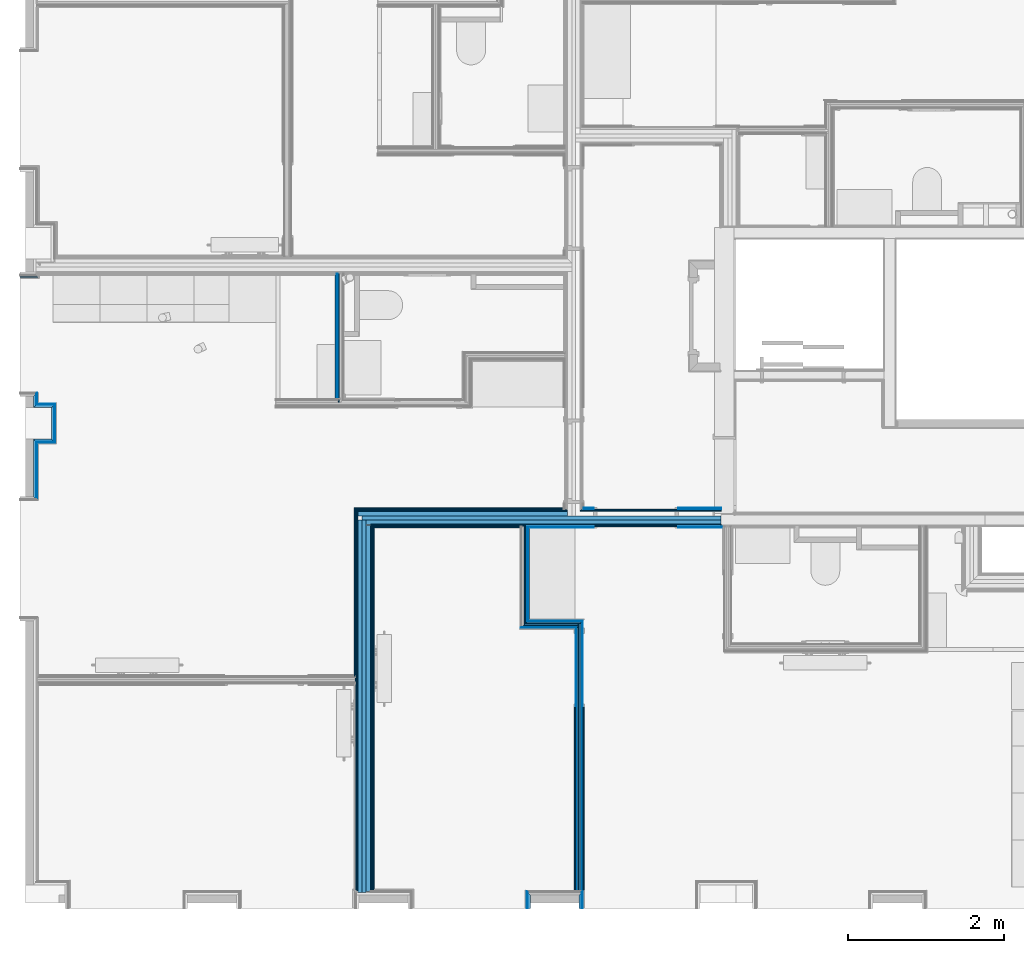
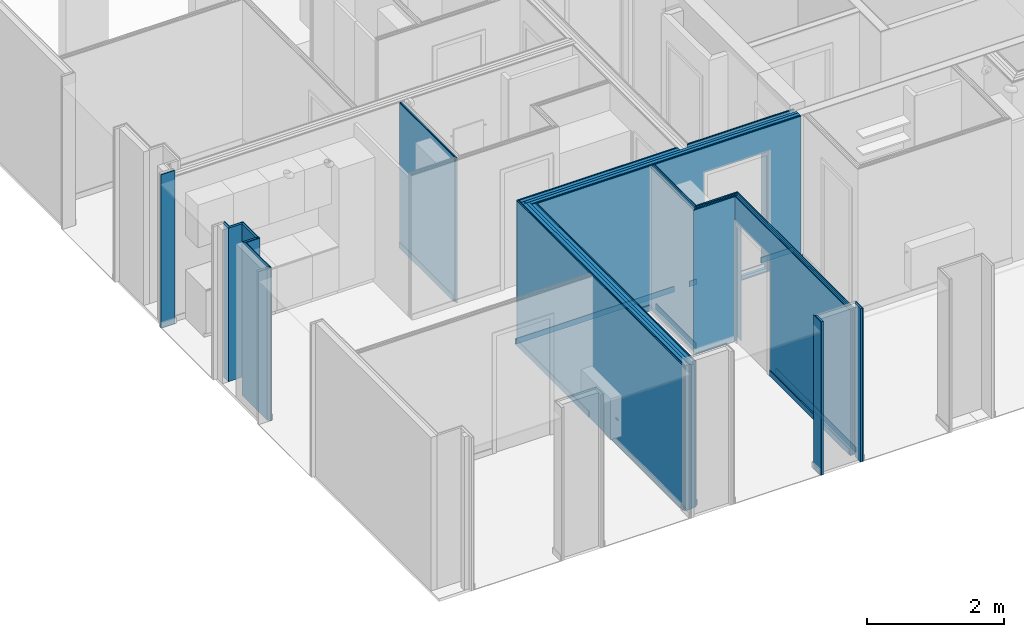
# One storey, part 10 of 82: 56 building element parts, 3 openings, 14 elements without a shape of their own.
"""IFC2X3 building model written with IfcOpenShell, lengths in metres."""

from ifc_helpers import new_model, entity, si_unit, converted_unit, derived_unit, money_unit, direction, frame, frame_2d, origin_with_axes, place, context, subcontext, project, spatial, polyline, rectangle, outline, extrude, material, type_object, element, aggregate, save


model = new_model("IFC2X3")

# Units and contexts
model_context = context("Model", 3, precision=1e-05, world=origin_with_axes(), true_north=direction((0.0, 1.0)))
body_context = subcontext(model_context, "Body", "Model", "MODEL_VIEW", scale=1.0)
ifc_project = project(units=[si_unit("LENGTHUNIT", "METRE"), si_unit("AREAUNIT", "SQUARE_METRE"), si_unit("VOLUMEUNIT", "CUBIC_METRE"), si_unit("ABSORBEDDOSEUNIT", "GRAY"), si_unit("AMOUNTOFSUBSTANCEUNIT", "MOLE"), si_unit("DOSEEQUIVALENTUNIT", "SIEVERT"), si_unit("ELECTRICCAPACITANCEUNIT", "FARAD"), si_unit("ELECTRICCHARGEUNIT", "COULOMB"), si_unit("ELECTRICCONDUCTANCEUNIT", "SIEMENS"), si_unit("ELECTRICCURRENTUNIT", "AMPERE"), si_unit("ELECTRICRESISTANCEUNIT", "OHM"), si_unit("ELECTRICVOLTAGEUNIT", "VOLT"), si_unit("ENERGYUNIT", "JOULE"), si_unit("FORCEUNIT", "NEWTON"), si_unit("FREQUENCYUNIT", "HERTZ"), si_unit("ILLUMINANCEUNIT", "LUX"), si_unit("INDUCTANCEUNIT", "HENRY"), si_unit("LUMINOUSFLUXUNIT", "LUMEN"), si_unit("LUMINOUSINTENSITYUNIT", "CANDELA"), si_unit("MAGNETICFLUXDENSITYUNIT", "TESLA"), si_unit("MAGNETICFLUXUNIT", "WEBER"), si_unit("MASSUNIT", "GRAM"), converted_unit("PLANEANGLEUNIT", "degree", entity("IfcReal", 0.0174532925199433), si_unit("PLANEANGLEUNIT", "RADIAN"), dimensions=[0, 0, 0, 0, 0, 0, 0]), si_unit("POWERUNIT", "WATT"), si_unit("PRESSUREUNIT", "PASCAL"), si_unit("RADIOACTIVITYUNIT", "BECQUEREL"), si_unit("SOLIDANGLEUNIT", "STERADIAN"), si_unit("THERMODYNAMICTEMPERATUREUNIT", "KELVIN"), si_unit("TIMEUNIT", "SECOND"), derived_unit("ACCELERATIONUNIT", [(si_unit("LENGTHUNIT", "METRE"), 1), (si_unit("TIMEUNIT", "SECOND"), -2)]), derived_unit("ANGULARVELOCITYUNIT", [(converted_unit("PLANEANGLEUNIT", "degree", entity("IfcReal", 0.0174532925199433), si_unit("PLANEANGLEUNIT", "RADIAN"), dimensions=[0, 0, 0, 0, 0, 0, 0]), 1), (si_unit("TIMEUNIT", "SECOND"), -1)]), derived_unit("CURVATUREUNIT", [(converted_unit("PLANEANGLEUNIT", "degree", entity("IfcReal", 0.0174532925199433), si_unit("PLANEANGLEUNIT", "RADIAN"), dimensions=[0, 0, 0, 0, 0, 0, 0]), 1), (si_unit("LENGTHUNIT", "METRE"), -1)]), derived_unit("DYNAMICVISCOSITYUNIT", [(si_unit("PRESSUREUNIT", "PASCAL"), 1), (si_unit("TIMEUNIT", "SECOND"), 1)]), derived_unit("HEATFLUXDENSITYUNIT", [(si_unit("POWERUNIT", "WATT"), 1), (si_unit("LENGTHUNIT", "METRE"), -2)]), derived_unit("HEATINGVALUEUNIT", [(si_unit("ENERGYUNIT", "JOULE"), 1), (si_unit("MASSUNIT", "GRAM"), -1)]), derived_unit("INTEGERCOUNTRATEUNIT", [(si_unit("TIMEUNIT", "SECOND"), -1)]), derived_unit("IONCONCENTRATIONUNIT", [(si_unit("MASSUNIT", "GRAM"), 1), (si_unit("VOLUMEUNIT", "CUBIC_METRE"), -1)]), derived_unit("ISOTHERMALMOISTURECAPACITYUNIT", [(si_unit("VOLUMEUNIT", "CUBIC_METRE"), 1), (si_unit("MASSUNIT", "GRAM"), -1)]), derived_unit("KINEMATICVISCOSITYUNIT", [(si_unit("AREAUNIT", "SQUARE_METRE"), 1), (si_unit("TIMEUNIT", "SECOND"), -1)]), derived_unit("LINEARFORCEUNIT", [(si_unit("FORCEUNIT", "NEWTON"), 1), (si_unit("LENGTHUNIT", "METRE"), -1)]), derived_unit("LINEARMOMENTUNIT", [(si_unit("FORCEUNIT", "NEWTON"), 1), (si_unit("LENGTHUNIT", "METRE"), -1)]), derived_unit("LINEARSTIFFNESSUNIT", [(si_unit("FORCEUNIT", "NEWTON"), 1), (si_unit("LENGTHUNIT", "METRE"), -1)]), derived_unit("LINEARVELOCITYUNIT", [(si_unit("LENGTHUNIT", "METRE"), 1), (si_unit("TIMEUNIT", "SECOND"), -1)]), derived_unit("LUMINOUSINTENSITYDISTRIBUTIONUNIT", [(si_unit("LUMINOUSINTENSITYUNIT", "CANDELA"), 1), (si_unit("LUMINOUSFLUXUNIT", "LUMEN"), -1)]), derived_unit("MASSDENSITYUNIT", [(si_unit("MASSUNIT", "GRAM"), 1), (si_unit("VOLUMEUNIT", "CUBIC_METRE"), -1)]), derived_unit("MASSFLOWRATEUNIT", [(si_unit("MASSUNIT", "GRAM"), 1), (si_unit("TIMEUNIT", "SECOND"), -1)]), derived_unit("MASSPERLENGTHUNIT", [(si_unit("MASSUNIT", "GRAM"), 1), (si_unit("LENGTHUNIT", "METRE"), -1)]), derived_unit("MODULUSOFELASTICITYUNIT", [(si_unit("FORCEUNIT", "NEWTON"), 1), (si_unit("AREAUNIT", "SQUARE_METRE"), -1)]), derived_unit("MODULUSOFLINEARSUBGRADEREACTIONUNIT", [(si_unit("FORCEUNIT", "NEWTON"), 1), (si_unit("LENGTHUNIT", "METRE"), -2)]), derived_unit("MODULUSOFROTATIONALSUBGRADEREACTIONUNIT", [(si_unit("FORCEUNIT", "NEWTON"), 1), (si_unit("LENGTHUNIT", "METRE"), 1)]), derived_unit("MODULUSOFSUBGRADEREACTIONUNIT", [(si_unit("FORCEUNIT", "NEWTON"), 1), (si_unit("VOLUMEUNIT", "CUBIC_METRE"), -1)]), derived_unit("MOISTUREDIFFUSIVITYUNIT", [(si_unit("VOLUMEUNIT", "CUBIC_METRE"), 1), (si_unit("TIMEUNIT", "SECOND"), -1)]), derived_unit("MOLECULARWEIGHTUNIT", [(si_unit("MASSUNIT", "GRAM"), 1), (si_unit("AMOUNTOFSUBSTANCEUNIT", "MOLE"), -1)]), derived_unit("PLANARFORCEUNIT", [(si_unit("FORCEUNIT", "NEWTON"), 1), (si_unit("LENGTHUNIT", "METRE"), -2)]), derived_unit("ROTATIONALFREQUENCYUNIT", [(si_unit("TIMEUNIT", "SECOND"), -1)]), derived_unit("ROTATIONALMASSUNIT", [(si_unit("MASSUNIT", "GRAM"), 1), (si_unit("LENGTHUNIT", "METRE"), 2)]), derived_unit("ROTATIONALSTIFFNESSUNIT", [(si_unit("FORCEUNIT", "NEWTON"), 1), (si_unit("LENGTHUNIT", "METRE"), 1), (converted_unit("PLANEANGLEUNIT", "degree", entity("IfcReal", 0.0174532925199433), si_unit("PLANEANGLEUNIT", "RADIAN"), dimensions=[0, 0, 0, 0, 0, 0, 0]), -1)]), derived_unit("SECTIONAREAINTEGRALUNIT", [(si_unit("LENGTHUNIT", "METRE"), 5)]), derived_unit("SECTIONMODULUSUNIT", [(si_unit("LENGTHUNIT", "METRE"), 3)]), derived_unit("SHEARMODULUSUNIT", [(si_unit("FORCEUNIT", "NEWTON"), 1), (si_unit("AREAUNIT", "SQUARE_METRE"), -1)]), derived_unit("SOUNDPOWERUNIT", [(si_unit("ENERGYUNIT", "JOULE"), 1), (si_unit("TIMEUNIT", "SECOND"), -1)]), derived_unit("SPECIFICHEATCAPACITYUNIT", [(si_unit("FORCEUNIT", "NEWTON"), 1), (si_unit("MASSUNIT", "GRAM"), -1), (si_unit("THERMODYNAMICTEMPERATUREUNIT", "KELVIN"), -1)]), derived_unit("TEMPERATUREGRADIENTUNIT", [(si_unit("THERMODYNAMICTEMPERATUREUNIT", "KELVIN"), 1), (si_unit("LENGTHUNIT", "METRE"), -1)]), derived_unit("THERMALADMITTANCEUNIT", [(si_unit("POWERUNIT", "WATT"), 1), (si_unit("AREAUNIT", "SQUARE_METRE"), -1), (si_unit("THERMODYNAMICTEMPERATUREUNIT", "KELVIN"), -1)]), derived_unit("THERMALCONDUCTANCEUNIT", [(si_unit("POWERUNIT", "WATT"), 1), (si_unit("LENGTHUNIT", "METRE"), -1), (si_unit("THERMODYNAMICTEMPERATUREUNIT", "KELVIN"), -1)]), derived_unit("THERMALEXPANSIONCOEFFICIENTUNIT", [(si_unit("THERMODYNAMICTEMPERATUREUNIT", "KELVIN"), -1)]), derived_unit("THERMALRESISTANCEUNIT", [(si_unit("AREAUNIT", "SQUARE_METRE"), 1), (si_unit("POWERUNIT", "WATT"), -1)]), derived_unit("THERMALTRANSMITTANCEUNIT", [(si_unit("POWERUNIT", "WATT"), 1), (si_unit("AREAUNIT", "SQUARE_METRE"), -1), (si_unit("THERMODYNAMICTEMPERATUREUNIT", "KELVIN"), -1)]), derived_unit("TORQUEUNIT", [(si_unit("FORCEUNIT", "NEWTON"), 1), (si_unit("LENGTHUNIT", "METRE"), 1)]), derived_unit("VAPORPERMEABILITYUNIT", [(si_unit("MASSUNIT", "GRAM"), 1), (si_unit("TIMEUNIT", "SECOND"), -1)]), derived_unit("VOLUMETRICFLOWRATEUNIT", [(si_unit("VOLUMEUNIT", "CUBIC_METRE"), 1), (si_unit("TIMEUNIT", "SECOND"), -1)]), derived_unit("WARPINGCONSTANTUNIT", [(si_unit("LENGTHUNIT", "METRE"), 6)]), derived_unit("WARPINGMOMENTUNIT", [(si_unit("FORCEUNIT", "NEWTON"), 1), (si_unit("LENGTHUNIT", "METRE"), 2)]), money_unit("GBP")], contexts=[model_context])

# Site, building, storey
site_placement = place(None, origin_with_axes())
site = spatial("IfcSite", under=ifc_project, at=site_placement, Name="Site", CompositionType="ELEMENT")
building_placement = place(site_placement, origin_with_axes())
building = spatial("IfcBuilding", under=site, at=building_placement, Name="Building01", CompositionType="ELEMENT")
storey_placement = place(building_placement, frame((0.0, 0.0, 12.13), z_axis=(0.0, 0.0, 1.0), x_axis=(1.0, 0.0, 0.0)))
storey = spatial("IfcBuildingStorey", under=building, at=storey_placement, Name="3F", CompositionType="ELEMENT", Elevation=12.13)

# Wall, building element parts
wall_type_1 = type_object("IfcWallType", Name="SHE_A-Walls_Type06d_ExternalWallInsulation_48mm", PredefinedType="NOTDEFINED")
wall_1_placement = place(storey_placement, frame((0.27, 6.64418, 0.0), z_axis=(0.0, 0.0, 1.0), x_axis=(0.0, -1.0, 0.0)))
wall_1 = element("IfcWall", 1, at=wall_1_placement, inside=storey, type_object=wall_type_1, Name="6D", ObjectType="SHE_A-Walls_Type06d_ExternalWallInsulation_48mm")
ifc_material_1 = material(Name="A_BSUK_Insulation")
placement_1 = place(wall_1_placement, origin_with_axes())
building_element_part_1 = element("IfcBuildingElementPart", 2, at=placement_1, material=ifc_material_1, Name="1", context=body_context, shape_type="SweptSolid", body=[
    extrude(outline(polyline([(0.10818, 0.036), (-0.036, 0.036), (0.0, 0.0), (0.14418, 0.0), (0.10818, 0.036)])), origin_with_axes(), (0.0, 0.0, 1.0), 2.74),
])
ifc_material_2 = material(Name="A_BSUK_WallInternal_Finishes_Plasterboard")
building_element_part_2 = element("IfcBuildingElementPart", 3, at=placement_1, material=ifc_material_2, Name="2", context=body_context, shape_type="SweptSolid", body=[
    extrude(outline(polyline([(0.09618, 0.048), (-0.048, 0.048), (-0.035, 0.035), (0.10918, 0.035), (0.09618, 0.048)])), origin_with_axes(), (0.0, 0.0, 1.0), 2.74),
])
aggregate(wall_1, [building_element_part_1, building_element_part_2])

wall_2_placement = place(storey_placement, frame((0.27, 6.5, 0.0), z_axis=(0.0, 0.0, 1.0), x_axis=(1.0, 0.0, 0.0)))
wall_2 = element("IfcWall", 4, at=wall_2_placement, inside=storey, type_object=wall_type_1, Name="6D", ObjectType="SHE_A-Walls_Type06d_ExternalWallInsulation_48mm")
placement_2 = place(wall_2_placement, origin_with_axes())
building_element_part_3 = element("IfcBuildingElementPart", 5, at=placement_2, material=ifc_material_1, Name="1", context=body_context, shape_type="SweptSolid", body=[
    extrude(outline(polyline([(0.266, 0.036), (0.036, 0.036), (0.0, 0.0), (0.23, 0.0), (0.266, 0.036)])), origin_with_axes(), (0.0, 0.0, 1.0), 2.74),
])
building_element_part_4 = element("IfcBuildingElementPart", 6, at=placement_2, material=ifc_material_2, Name="2", context=body_context, shape_type="SweptSolid", body=[
    extrude(outline(polyline([(0.278, 0.048), (0.048, 0.048), (0.035, 0.035), (0.265, 0.035), (0.278, 0.048)])), origin_with_axes(), (0.0, 0.0, 1.0), 2.74),
])
aggregate(wall_2, [building_element_part_3, building_element_part_4])

wall_3_placement = place(storey_placement, frame((0.5, 6.5, 0.0), z_axis=(0.0, 0.0, 1.0), x_axis=(0.0, -1.0, 0.0)))
wall_3 = element("IfcWall", 7, at=wall_3_placement, inside=storey, type_object=wall_type_1, Name="6D", ObjectType="SHE_A-Walls_Type06d_ExternalWallInsulation_48mm")
placement_3 = place(wall_3_placement, origin_with_axes())
building_element_part_5 = element("IfcBuildingElementPart", 8, at=placement_3, material=ifc_material_1, Name="1", context=body_context, shape_type="SweptSolid", body=[
    extrude(outline(polyline([(0.436, 0.036), (-0.036, 0.036), (0.0, 0.0), (0.4, 0.0), (0.436, 0.036)])), origin_with_axes(), (0.0, 0.0, 1.0), 2.74),
])
building_element_part_6 = element("IfcBuildingElementPart", 9, at=placement_3, material=ifc_material_2, Name="2", context=body_context, shape_type="SweptSolid", body=[
    extrude(outline(polyline([(0.448, 0.048), (-0.048, 0.048), (-0.035, 0.035), (0.435, 0.035), (0.448, 0.048)])), origin_with_axes(), (0.0, 0.0, 1.0), 2.74),
])
aggregate(wall_3, [building_element_part_5, building_element_part_6])

wall_4_placement = place(storey_placement, frame((0.5, 6.1, 0.0), z_axis=(0.0, 0.0, 1.0), x_axis=(-1.0, 0.0, 0.0)))
wall_4 = element("IfcWall", 10, at=wall_4_placement, inside=storey, type_object=wall_type_1, Name="6D", ObjectType="SHE_A-Walls_Type06d_ExternalWallInsulation_48mm")
placement_4 = place(wall_4_placement, origin_with_axes())
building_element_part_7 = element("IfcBuildingElementPart", 11, at=placement_4, material=ifc_material_1, Name="1", context=body_context, shape_type="SweptSolid", body=[
    extrude(outline(polyline([(0.194, 0.036), (-0.036, 0.036), (0.0, 0.0), (0.23, 0.0), (0.194, 0.036)])), origin_with_axes(), (0.0, 0.0, 1.0), 2.74),
])
building_element_part_8 = element("IfcBuildingElementPart", 12, at=placement_4, material=ifc_material_2, Name="2", context=body_context, shape_type="SweptSolid", body=[
    extrude(outline(polyline([(0.182, 0.048), (-0.048, 0.048), (-0.035, 0.035), (0.195, 0.035), (0.182, 0.048)])), origin_with_axes(), (0.0, 0.0, 1.0), 2.74),
])
aggregate(wall_4, [building_element_part_7, building_element_part_8])

wall_5_placement = place(storey_placement, frame((0.27, 6.1, 0.0), z_axis=(0.0, 0.0, 1.0), x_axis=(0.0, -1.0, 0.0)))
wall_5 = element("IfcWall", 13, at=wall_5_placement, inside=storey, type_object=wall_type_1, Name="6D", ObjectType="SHE_A-Walls_Type06d_ExternalWallInsulation_48mm")
placement_5 = place(wall_5_placement, origin_with_axes())
building_element_part_9 = element("IfcBuildingElementPart", 14, at=placement_5, material=ifc_material_1, Name="1", context=body_context, shape_type="SweptSolid", body=[
    extrude(outline(polyline([(0.773, 0.036), (0.036, 0.036), (0.0, 0.0), (0.737, 0.0), (0.773, 0.036)])), origin_with_axes(), (0.0, 0.0, 1.0), 2.74),
])
building_element_part_10 = element("IfcBuildingElementPart", 15, at=placement_5, material=ifc_material_2, Name="2", context=body_context, shape_type="SweptSolid", body=[
    extrude(outline(polyline([(0.785, 0.048), (0.048, 0.048), (0.035, 0.035), (0.772, 0.035), (0.785, 0.048)])), origin_with_axes(), (0.0, 0.0, 1.0), 2.74),
])
aggregate(wall_5, [building_element_part_9, building_element_part_10])

wall_6_placement = place(storey_placement, frame((6.623, 0.1, 0.0), z_axis=(0.0, 0.0, 1.0), x_axis=(0.0, 1.0, 0.0)))
wall_6 = element("IfcWall", 16, at=wall_6_placement, inside=storey, type_object=wall_type_1, Name="6D", ObjectType="SHE_A-Walls_Type06d_ExternalWallInsulation_48mm")
placement_6 = place(wall_6_placement, origin_with_axes())
building_element_part_11 = element("IfcBuildingElementPart", 17, at=placement_6, material=ifc_material_1, Name="1", context=body_context, shape_type="SweptSolid", body=[
    extrude(outline(polyline([(0.206, 0.036), (0.0, 0.036), (0.0, 0.0), (0.17, 0.0), (0.206, 0.036)])), origin_with_axes(), (0.0, 0.0, 1.0), 2.74),
])
building_element_part_12 = element("IfcBuildingElementPart", 18, at=placement_6, material=ifc_material_2, Name="2", context=body_context, shape_type="SweptSolid", body=[
    extrude(outline(polyline([(0.218, 0.048), (0.0, 0.048), (0.0, 0.035), (0.205, 0.035), (0.218, 0.048)])), origin_with_axes(), (0.0, 0.0, 1.0), 2.74),
])
aggregate(wall_6, [building_element_part_11, building_element_part_12])

wall_7_placement = place(storey_placement, frame((7.247, 0.27, 0.0), z_axis=(0.0, 0.0, 1.0), x_axis=(0.0, -1.0, 0.0)))
wall_7 = element("IfcWall", 19, at=wall_7_placement, inside=storey, type_object=wall_type_1, Name="6D", ObjectType="SHE_A-Walls_Type06d_ExternalWallInsulation_48mm")
placement_7 = place(wall_7_placement, origin_with_axes())
building_element_part_13 = element("IfcBuildingElementPart", 20, at=placement_7, material=ifc_material_1, Name="1", context=body_context, shape_type="SweptSolid", body=[
    extrude(outline(polyline([(-0.036, 0.036), (0.0, 0.0), (0.17, 0.0), (0.17, 0.036), (-0.036, 0.036)])), origin_with_axes(), (0.0, 0.0, 1.0), 2.74),
])
building_element_part_14 = element("IfcBuildingElementPart", 21, at=placement_7, material=ifc_material_2, Name="2", context=body_context, shape_type="SweptSolid", body=[
    extrude(outline(polyline([(-0.048, 0.048), (-0.035, 0.035), (0.17, 0.035), (0.17, 0.048), (-0.048, 0.048)])), origin_with_axes(), (0.0, 0.0, 1.0), 2.74),
])
aggregate(wall_7, [building_element_part_13, building_element_part_14])

wall_type_2 = type_object("IfcWallType", Name="SHE_A-Walls_Type05a_Partition_95mm_tall", PredefinedType="NOTDEFINED")
wall_8_placement = place(storey_placement, frame((4.20573, 6.571475, 0.0), z_axis=(0.0, 0.0, 1.0), x_axis=(0.0, 1.0, 0.0)))
wall_8 = element("IfcWall", 22, at=wall_8_placement, inside=storey, type_object=wall_type_2, Name="5A", ObjectType="SHE_A-Walls_Type05a_Partition_95mm_tall")
ifc_material_3 = material(Name="Air Cavity")
placement_8 = place(wall_8_placement, origin_with_axes())
building_element_part_15 = element("IfcBuildingElementPart", 23, at=placement_8, material=ifc_material_3, Name="5", context=body_context, shape_type="SweptSolid", body=[
    extrude(rectangle(XDim=1.639195, YDim=0.023, at=frame_2d((0.819597, 0.0365), x_axis=(-1.0, 0.0))), origin_with_axes(), (0.0, 0.0, 1.0), 2.59),
])
building_element_part_16 = element("IfcBuildingElementPart", 24, at=placement_8, material=ifc_material_2, Name="6", context=body_context, shape_type="SweptSolid", body=[
    extrude(rectangle(XDim=1.604195, YDim=0.012, at=frame_2d((0.837097, 0.054), x_axis=(-1.0, 0.0))), origin_with_axes(), (0.0, 0.0, 1.0), 2.59),
])
ifc_material_4 = material(Name="A_BSUK_Walls_Timber")
building_element_part_17 = element("IfcBuildingElementPart", 25, at=placement_8, material=ifc_material_4, Name="7", context=body_context, shape_type="SweptSolid", body=[
    extrude(rectangle(XDim=1.574195, YDim=0.015, at=frame_2d((0.837097, 0.0675), x_axis=(-1.0, 0.0))), frame((0.0, 0.0, 0.015), z_axis=(0.0, 0.0, 1.0), x_axis=(1.0, 0.0, 0.0)), (0.0, 0.0, 1.0), 0.1),
])
aggregate(wall_8, [building_element_part_15, building_element_part_16, building_element_part_17])

wall_type_3 = type_object("IfcWallType", Name="SHE_A-Walls_Type01c_Partywall_225mm_twin_tall", PredefinedType="NOTDEFINED")
wall_9_placement = place(storey_placement, frame((4.522, 0.306, 0.0), z_axis=(0.0, 0.0, 1.0), x_axis=(0.0, 1.0, 0.0)))
wall_9 = element("IfcWall", 26, at=wall_9_placement, inside=storey, type_object=wall_type_3, Name="1C", ObjectType="SHE_A-Walls_Type01c_Partywall_225mm_twin_tall")
placement_9 = place(wall_9_placement, origin_with_axes())
building_element_part_18 = element("IfcBuildingElementPart", 27, at=placement_9, material=ifc_material_4, Name="1", context=body_context, shape_type="SweptSolid", body=[
    extrude(rectangle(XDim=4.632, YDim=0.015, at=frame_2d((2.343, -0.0955), x_axis=(-1.0, 0.0))), frame((0.0, 0.0, 0.015), z_axis=(0.0, 0.0, 1.0), x_axis=(1.0, 0.0, 0.0)), (0.0, 0.0, 1.0), 0.1),
])
building_element_part_19 = element("IfcBuildingElementPart", 28, at=placement_9, material=ifc_material_2, Name="2", context=body_context, shape_type="SweptSolid", body=[
    extrude(rectangle(XDim=4.647, YDim=0.015, at=frame_2d((2.3505, -0.0805), x_axis=(-1.0, 0.0))), origin_with_axes(), (0.0, 0.0, 1.0), 2.59),
])
building_element_part_20 = element("IfcBuildingElementPart", 29, at=placement_9, material=ifc_material_2, Name="3", context=body_context, shape_type="SweptSolid", body=[
    extrude(rectangle(XDim=4.677, YDim=0.015, at=frame_2d((2.3505, -0.0655), x_axis=(-1.0, 0.0))), origin_with_axes(), (0.0, 0.0, 1.0), 2.59),
])
building_element_part_21 = element("IfcBuildingElementPart", 30, at=placement_9, material=ifc_material_3, Name="4", context=body_context, shape_type="SweptSolid", body=[
    extrude(rectangle(XDim=4.677, YDim=0.058, at=frame_2d((2.3505, -0.029), x_axis=(-1.0, 0.0))), origin_with_axes(), (0.0, 0.0, 1.0), 2.59),
])
building_element_part_22 = element("IfcBuildingElementPart", 31, at=placement_9, material=ifc_material_1, Name="5", context=body_context, shape_type="SweptSolid", body=[
    extrude(rectangle(XDim=4.761, YDim=0.05, at=frame_2d((2.3805, 0.025), x_axis=(-1.0, 0.0))), origin_with_axes(), (0.0, 0.0, 1.0), 2.59),
])
building_element_part_23 = element("IfcBuildingElementPart", 32, at=placement_9, material=ifc_material_3, Name="6", context=body_context, shape_type="SweptSolid", body=[
    extrude(rectangle(XDim=4.761, YDim=0.057, at=frame_2d((2.3805, 0.0785), x_axis=(-1.0, 0.0))), origin_with_axes(), (0.0, 0.0, 1.0), 2.59),
])
building_element_part_24 = element("IfcBuildingElementPart", 33, at=placement_9, material=ifc_material_2, Name="7", context=body_context, shape_type="SweptSolid", body=[
    extrude(rectangle(XDim=4.857, YDim=0.015, at=frame_2d((2.4405, 0.1145), x_axis=(-1.0, 0.0))), origin_with_axes(), (0.0, 0.0, 1.0), 2.59),
])
building_element_part_25 = element("IfcBuildingElementPart", 34, at=placement_9, material=ifc_material_2, Name="8", context=body_context, shape_type="SweptSolid", body=[
    extrude(rectangle(XDim=4.857, YDim=0.015, at=frame_2d((2.4555, 0.1295), x_axis=(-1.0, 0.0))), origin_with_axes(), (0.0, 0.0, 1.0), 2.59),
])
building_element_part_26 = element("IfcBuildingElementPart", 35, at=placement_9, material=ifc_material_4, Name="10", context=body_context, shape_type="SweptSolid", body=[
    extrude(outline(polyline([(4.914, 0.152), (2.759286, 0.152), (2.759286, 0.137), (4.899, 0.137), (4.914, 0.152)])), frame((0.0, 0.0, 0.015), z_axis=(0.0, 0.0, 1.0), x_axis=(1.0, 0.0, 0.0)), (0.0, 0.0, 1.0), 0.1),
])
aggregate(wall_9, [building_element_part_18, building_element_part_19, building_element_part_20, building_element_part_21, building_element_part_22, building_element_part_23, building_element_part_24, building_element_part_25, building_element_part_26])

wall_10_placement = place(storey_placement, frame((7.235, 3.72, 0.0), z_axis=(0.0, 0.0, 1.0), x_axis=(-1.0, 0.0, 0.0)))
wall_10 = element("IfcWall", 36, at=wall_10_placement, inside=storey, type_object=wall_type_2, Name="5A", ObjectType="SHE_A-Walls_Type05a_Partition_95mm_tall")
placement_10 = place(wall_10_placement, origin_with_axes())
building_element_part_27 = element("IfcBuildingElementPart", 37, at=placement_10, material=ifc_material_2, Name="2", context=body_context, shape_type="SweptSolid", body=[
    extrude(outline(polyline([(0.652, -0.048), (-0.048, -0.048), (-0.06, -0.06), (0.64, -0.06), (0.652, -0.048)])), origin_with_axes(), (0.0, 0.0, 1.0), 2.59),
])
building_element_part_28 = element("IfcBuildingElementPart", 38, at=placement_10, material=ifc_material_3, Name="3", context=body_context, shape_type="SweptSolid", body=[
    extrude(outline(polyline([(0.675, -0.025), (-0.025, -0.025), (-0.048, -0.048), (0.652, -0.048), (0.675, -0.025)])), origin_with_axes(), (0.0, 0.0, 1.0), 2.59),
])
building_element_part_29 = element("IfcBuildingElementPart", 39, at=placement_10, material=ifc_material_1, Name="4", context=body_context, shape_type="SweptSolid", body=[
    extrude(outline(polyline([(0.7, 0.0), (0.0, 0.0), (0.0, -0.025), (0.675, -0.025), (0.7, 0.0)])), origin_with_axes(), (0.0, 0.0, 1.0), 2.59),
])
building_element_part_30 = element("IfcBuildingElementPart", 40, at=placement_10, material=ifc_material_3, Name="5", context=body_context, shape_type="SweptSolid", body=[
    extrude(outline(polyline([(0.723, 0.023), (0.0, 0.023), (0.0, 0.0), (0.7, 0.0), (0.723, 0.023)])), origin_with_axes(), (0.0, 0.0, 1.0), 2.59),
])
building_element_part_31 = element("IfcBuildingElementPart", 41, at=placement_10, material=ifc_material_2, Name="6", context=body_context, shape_type="SweptSolid", body=[
    extrude(outline(polyline([(0.735, 0.035), (0.035, 0.035), (0.023, 0.023), (0.723, 0.023), (0.735, 0.035)])), origin_with_axes(), (0.0, 0.0, 1.0), 2.59),
])
aggregate(wall_10, [building_element_part_27, building_element_part_28, building_element_part_29, building_element_part_30, building_element_part_31])

# Wall, openings, building element parts
wall_11_placement = place(storey_placement, frame((7.26, 3.745, 0.0), z_axis=(0.0, 0.0, 1.0), x_axis=(0.0, -1.0, 0.0)))
wall_11 = element("IfcWall", 42, at=wall_11_placement, inside=storey, type_object=wall_type_2, Name="5A", ObjectType="SHE_A-Walls_Type05a_Partition_95mm_tall")
opening_1_placement = place(wall_11_placement, frame((0.129, -0.075, -0.015), z_axis=(0.0, 0.0, 1.0), x_axis=(1.0, 0.0, 0.0)))
element("IfcOpeningElement", 43, at=opening_1_placement, cuts=wall_11, Name="Opening", ObjectType="Opening", context=body_context, shape_type="SweptSolid", body=[
    extrude(outline(polyline([(0.0, 2.142), (-0.9, 2.142), (-0.9, 0.015), (-0.464219, 0.015), (-0.464219, 0.0), (0.0, 0.0), (0.0, 2.142)])), frame((0.0, 0.0, 0.0), z_axis=(0.0, 1.0, 0.0), x_axis=(-1.0, 0.0, 0.0)), (0.0, 0.0, 1.0), 0.125),
    extrude(outline(polyline([(0.619781, 2.157), (-0.942, 2.157), (-0.942, 0.015), (-0.464219, 0.015), (-0.464219, 0.0), (0.619781, 0.0), (0.619781, 2.157)])), frame((0.0, 0.015, 0.0), z_axis=(0.0, 1.0, 0.0), x_axis=(-1.0, 0.0, 0.0)), (0.0, 0.0, 1.0), 0.012),
    extrude(outline(polyline([(0.619781, 2.157), (-0.942, 2.157), (-0.942, 0.015), (-0.464219, 0.015), (-0.464219, 0.0), (0.619781, 0.0), (0.619781, 2.157)])), frame((0.0, 0.027, 0.0), z_axis=(0.0, 1.0, 0.0), x_axis=(-1.0, 0.0, 0.0)), (0.0, 0.0, 1.0), 0.023),
    extrude(outline(polyline([(0.619781, 2.157), (-0.942, 2.157), (-0.942, 0.015), (-0.464219, 0.015), (-0.464219, 0.0), (0.619781, 0.0), (0.619781, 2.157)])), frame((0.0, 0.05, 0.0), z_axis=(0.0, 1.0, 0.0), x_axis=(-1.0, 0.0, 0.0)), (0.0, 0.0, 1.0), 0.025),
    extrude(outline(polyline([(0.619781, 2.157), (-0.942, 2.157), (-0.942, 0.015), (-0.464219, 0.015), (-0.464219, 0.0), (0.619781, 0.0), (0.619781, 2.157)])), frame((0.0, 0.075, 0.0), z_axis=(0.0, 1.0, 0.0), x_axis=(-1.0, 0.0, 0.0)), (0.0, 0.0, 1.0), 0.023),
    extrude(rectangle(XDim=0.9, YDim=2.142, at=frame_2d((-0.45, 1.071), x_axis=(-1.0, 0.0))), frame((0.0, 0.098, 0.0), z_axis=(0.0, 1.0, 0.0), x_axis=(-1.0, 0.0, 0.0)), (0.0, 0.0, 1.0), 0.012),
    extrude(outline(polyline([(0.042, 2.142), (0.042, 2.157), (-0.942, 2.157), (-0.942, 0.015), (-0.464219, 0.015), (-0.464219, 0.0), (0.619781, 0.0), (0.619781, 2.142), (0.042, 2.142)])), frame((0.0, 0.0, 0.0), z_axis=(0.0, 1.0, 0.0), x_axis=(-1.0, 0.0, 0.0)), (0.0, 0.0, 1.0), 0.098),
    extrude(outline(polyline([(0.042, 2.142), (0.042, 2.157), (-0.942, 2.157), (-0.942, 0.015), (-0.464219, 0.015), (-0.464219, 0.0), (0.619781, 0.0), (0.619781, 2.142), (0.042, 2.142)])), frame((0.0, 0.11, 0.0), z_axis=(0.0, 1.0, 0.0), x_axis=(-1.0, 0.0, 0.0)), (0.0, 0.0, 1.0), 0.015),
])
opening_2_placement = place(wall_11_placement, frame((0.087, 0.023, 0.0), z_axis=(0.0, 0.0, 1.0), x_axis=(1.0, 0.0, 0.0)))
element("IfcOpeningElement", 44, at=opening_2_placement, cuts=wall_11, Name="Opening", ObjectType="Recess", context=body_context, shape_type="SweptSolid", body=[
    extrude(rectangle(XDim=2.142, YDim=0.984, at=frame_2d((-0.492, 1.071), x_axis=(0.0, 1.0))), frame((0.0, 0.0, 0.0), z_axis=(0.0, 1.0, 0.0), x_axis=(-1.0, 0.0, 0.0)), (0.0, 0.0, 1.0), 0.012),
])
placement_11 = place(wall_11_placement, origin_with_axes())
building_element_part_32 = element("IfcBuildingElementPart", 45, at=placement_11, material=ifc_material_4, Name="1", context=body_context, shape_type="SweptSolid", body=[
    extrude(outline(polyline([(3.412, -0.06), (0.06, -0.06), (0.075, -0.075), (3.412, -0.075), (3.412, -0.06)])), frame((0.0, 0.0, 0.015), z_axis=(0.0, 0.0, 1.0), x_axis=(1.0, 0.0, 0.0)), (0.0, 0.0, 1.0), 0.1),
])
building_element_part_33 = element("IfcBuildingElementPart", 46, at=placement_11, material=ifc_material_2, Name="2", context=body_context, shape_type="SweptSolid", body=[
    extrude(outline(polyline([(3.427, -0.048), (0.048, -0.048), (0.06, -0.06), (3.427, -0.06), (3.427, -0.048)])), origin_with_axes(), (0.0, 0.0, 1.0), 2.59),
])
building_element_part_34 = element("IfcBuildingElementPart", 47, at=placement_11, material=ifc_material_3, Name="3", context=body_context, shape_type="SweptSolid", body=[
    extrude(outline(polyline([(3.427, -0.025), (0.025, -0.025), (0.048, -0.048), (3.427, -0.048), (3.427, -0.025)])), origin_with_axes(), (0.0, 0.0, 1.0), 2.59),
])
building_element_part_35 = element("IfcBuildingElementPart", 48, at=placement_11, material=ifc_material_1, Name="4", context=body_context, shape_type="SweptSolid", body=[
    extrude(rectangle(XDim=3.427, YDim=0.025, at=frame_2d((1.7135, -0.0125), x_axis=(-1.0, 0.0))), origin_with_axes(), (0.0, 0.0, 1.0), 2.59),
])
building_element_part_36 = element("IfcBuildingElementPart", 49, at=placement_11, material=ifc_material_3, Name="5", context=body_context, shape_type="SweptSolid", body=[
    extrude(rectangle(XDim=3.427, YDim=0.023, at=frame_2d((1.7135, 0.0115), x_axis=(-1.0, 0.0))), origin_with_axes(), (0.0, 0.0, 1.0), 2.59),
])
building_element_part_37 = element("IfcBuildingElementPart", 50, at=placement_11, material=ifc_material_2, Name="6", context=body_context, shape_type="SweptSolid", body=[
    extrude(outline(polyline([(3.427, 0.035), (-0.035, 0.035), (-0.023, 0.023), (3.427, 0.023), (3.427, 0.035)])), origin_with_axes(), (0.0, 0.0, 1.0), 2.59),
])
building_element_part_38 = element("IfcBuildingElementPart", 51, at=placement_11, material=ifc_material_4, Name="7", context=body_context, shape_type="SweptSolid", body=[
    extrude(outline(polyline([(3.412, 0.05), (-0.05, 0.05), (-0.035, 0.035), (3.412, 0.035), (3.412, 0.05)])), frame((0.0, 0.0, 0.015), z_axis=(0.0, 0.0, 1.0), x_axis=(1.0, 0.0, 0.0)), (0.0, 0.0, 1.0), 0.1),
])
aggregate(wall_11, [building_element_part_32, building_element_part_33, building_element_part_34, building_element_part_35, building_element_part_36, building_element_part_37, building_element_part_38])

# Wall, opening, building element parts
wall_12_placement = place(storey_placement, frame((9.06, 5.117, 0.0), z_axis=(0.0, 0.0, 1.0), x_axis=(-1.0, 0.0, 0.0)))
wall_12 = element("IfcWall", 52, at=wall_12_placement, inside=storey, type_object=wall_type_3, Name="1C", ObjectType="SHE_A-Walls_Type01c_Partywall_225mm_twin_tall")
opening_3_placement = place(wall_12_placement, frame((0.5455, -0.103, 0.004), z_axis=(0.0, 0.0, 1.0), x_axis=(1.0, 0.0, 0.0)))
element("IfcOpeningElement", 53, at=opening_3_placement, cuts=wall_12, Name="Opening", ObjectType="Opening", context=body_context, shape_type="SweptSolid", body=[
    extrude(rectangle(XDim=2.142, YDim=1.084, at=frame_2d((-0.542, 1.071), x_axis=(0.0, -1.0))), frame((0.0, 0.0, 0.0), z_axis=(0.0, 1.0, 0.0), x_axis=(-1.0, 0.0, 0.0)), (0.0, 0.0, 1.0), 0.255),
])
placement_12 = place(wall_12_placement, origin_with_axes())
building_element_part_39 = element("IfcBuildingElementPart", 54, at=placement_12, material=ifc_material_4, Name="1", context=body_context, shape_type="SweptSolid", body=[
    extrude(rectangle(XDim=1.755331, YDim=0.015, at=frame_2d((0.877666, -0.0955), x_axis=(-1.0, 0.0))), frame((0.0, 0.0, 0.015), z_axis=(0.0, 0.0, 1.0), x_axis=(1.0, 0.0, 0.0)), (0.0, 0.0, 1.0), 0.1),
])
building_element_part_40 = element("IfcBuildingElementPart", 55, at=placement_12, material=ifc_material_4, Name="2", context=body_context, shape_type="SweptSolid", body=[
    extrude(outline(polyline([(4.675, -0.088), (2.010331, -0.088), (2.010331, -0.103), (4.69, -0.103), (4.675, -0.088)])), frame((0.0, 0.0, 0.015), z_axis=(0.0, 0.0, 1.0), x_axis=(1.0, 0.0, 0.0)), (0.0, 0.0, 1.0), 0.1),
])
building_element_part_41 = element("IfcBuildingElementPart", 56, at=placement_12, material=ifc_material_2, Name="3", context=body_context, shape_type="SweptSolid", body=[
    extrude(rectangle(XDim=1.785331, YDim=0.015, at=frame_2d((0.892666, -0.0805), x_axis=(-1.0, 0.0))), origin_with_axes(), (0.0, 0.0, 1.0), 2.59),
])
building_element_part_42 = element("IfcBuildingElementPart", 57, at=placement_12, material=ifc_material_2, Name="4", context=body_context, shape_type="SweptSolid", body=[
    extrude(rectangle(XDim=2.694669, YDim=0.015, at=frame_2d((3.327666, -0.0805), x_axis=(-1.0, 0.0))), origin_with_axes(), (0.0, 0.0, 1.0), 2.59),
])
building_element_part_43 = element("IfcBuildingElementPart", 58, at=placement_12, material=ifc_material_2, Name="5", context=body_context, shape_type="SweptSolid", body=[
    extrude(rectangle(XDim=1.800331, YDim=0.015, at=frame_2d((0.900166, -0.0655), x_axis=(-1.0, 0.0))), origin_with_axes(), (0.0, 0.0, 1.0), 2.59),
])
building_element_part_44 = element("IfcBuildingElementPart", 59, at=placement_12, material=ifc_material_2, Name="6", context=body_context, shape_type="SweptSolid", body=[
    extrude(rectangle(XDim=2.694669, YDim=0.015, at=frame_2d((3.312666, -0.0655), x_axis=(-1.0, 0.0))), origin_with_axes(), (0.0, 0.0, 1.0), 2.59),
])
building_element_part_45 = element("IfcBuildingElementPart", 60, at=placement_12, material=ifc_material_3, Name="7", context=body_context, shape_type="SweptSolid", body=[
    extrude(rectangle(XDim=2.694669, YDim=0.058, at=frame_2d((3.312666, -0.029), x_axis=(-1.0, 0.0))), origin_with_axes(), (0.0, 0.0, 1.0), 2.59),
])
building_element_part_46 = element("IfcBuildingElementPart", 61, at=placement_12, material=ifc_material_1, Name="8", context=body_context, shape_type="SweptSolid", body=[
    extrude(rectangle(XDim=4.588, YDim=0.05, at=frame_2d((2.294, 0.025), x_axis=(-1.0, 0.0))), origin_with_axes(), (0.0, 0.0, 1.0), 2.59),
])
building_element_part_47 = element("IfcBuildingElementPart", 62, at=placement_12, material=ifc_material_3, Name="9", context=body_context, shape_type="SweptSolid", body=[
    extrude(rectangle(XDim=4.588, YDim=0.057, at=frame_2d((2.294, 0.0785), x_axis=(-1.0, 0.0))), origin_with_axes(), (0.0, 0.0, 1.0), 2.59),
])
building_element_part_48 = element("IfcBuildingElementPart", 63, at=placement_12, material=ifc_material_2, Name="10", context=body_context, shape_type="SweptSolid", body=[
    extrude(rectangle(XDim=4.48, YDim=0.015, at=frame_2d((2.24, 0.1145), x_axis=(-1.0, 0.0))), origin_with_axes(), (0.0, 0.0, 1.0), 2.59),
])
building_element_part_49 = element("IfcBuildingElementPart", 64, at=placement_12, material=ifc_material_2, Name="11", context=body_context, shape_type="SweptSolid", body=[
    extrude(rectangle(XDim=4.465, YDim=0.015, at=frame_2d((2.2325, 0.1295), x_axis=(-1.0, 0.0))), origin_with_axes(), (0.0, 0.0, 1.0), 2.59),
])
building_element_part_50 = element("IfcBuildingElementPart", 65, at=placement_12, material=ifc_material_4, Name="12", context=body_context, shape_type="SweptSolid", body=[
    extrude(rectangle(XDim=2.487536, YDim=0.015, at=frame_2d((1.221232, 0.1445), x_axis=(-1.0, 0.0))), frame((0.0, 0.0, 0.015), z_axis=(0.0, 0.0, 1.0), x_axis=(1.0, 0.0, 0.0)), (0.0, 0.0, 1.0), 0.1),
])
building_element_part_51 = element("IfcBuildingElementPart", 66, at=placement_12, material=ifc_material_4, Name="13", context=body_context, shape_type="SweptSolid", body=[
    extrude(rectangle(XDim=1.89, YDim=0.015, at=frame_2d((3.505, 0.1445), x_axis=(-1.0, 0.0))), frame((0.0, 0.0, 0.015), z_axis=(0.0, 0.0, 1.0), x_axis=(1.0, 0.0, 0.0)), (0.0, 0.0, 1.0), 0.1),
])
aggregate(wall_12, [building_element_part_39, building_element_part_40, building_element_part_41, building_element_part_42, building_element_part_43, building_element_part_44, building_element_part_45, building_element_part_46, building_element_part_47, building_element_part_48, building_element_part_49, building_element_part_50, building_element_part_51])

# Wall, building element parts
wall_13_placement = place(storey_placement, frame((6.535, 3.72, 0.0), z_axis=(0.0, 0.0, 1.0), x_axis=(0.0, 1.0, 0.0)))
wall_13 = element("IfcWall", 67, at=wall_13_placement, inside=storey, type_object=wall_type_2, Name="5A", ObjectType="SHE_A-Walls_Type05a_Partition_95mm_tall")
placement_13 = place(wall_13_placement, origin_with_axes())
building_element_part_52 = element("IfcBuildingElementPart", 68, at=placement_13, material=ifc_material_4, Name="1", context=body_context, shape_type="SweptSolid", body=[
    extrude(outline(polyline([(1.245, -0.06), (0.06, -0.06), (0.075, -0.075), (1.245, -0.075), (1.245, -0.06)])), frame((0.0, 0.0, 0.015), z_axis=(0.0, 0.0, 1.0), x_axis=(1.0, 0.0, 0.0)), (0.0, 0.0, 1.0), 0.1),
])
building_element_part_53 = element("IfcBuildingElementPart", 69, at=placement_13, material=ifc_material_2, Name="2", context=body_context, shape_type="SweptSolid", body=[
    extrude(outline(polyline([(1.26, -0.048), (0.048, -0.048), (0.06, -0.06), (1.26, -0.06), (1.26, -0.048)])), origin_with_axes(), (0.0, 0.0, 1.0), 2.59),
])
building_element_part_54 = element("IfcBuildingElementPart", 70, at=placement_13, material=ifc_material_3, Name="3", context=body_context, shape_type="SweptSolid", body=[
    extrude(outline(polyline([(1.26, -0.025), (0.025, -0.025), (0.048, -0.048), (1.26, -0.048), (1.26, -0.025)])), origin_with_axes(), (0.0, 0.0, 1.0), 2.59),
])
building_element_part_55 = element("IfcBuildingElementPart", 71, at=placement_13, material=ifc_material_1, Name="4", context=body_context, shape_type="SweptSolid", body=[
    extrude(outline(polyline([(1.26, 0.0), (0.0, 0.0), (0.025, -0.025), (1.26, -0.025), (1.26, 0.0)])), origin_with_axes(), (0.0, 0.0, 1.0), 2.59),
])
aggregate(wall_13, [building_element_part_52, building_element_part_53, building_element_part_54, building_element_part_55])

# Wall, building element part
wall_type_4 = type_object("IfcWallType", Name="SHE_A-Walls_Type06f_ExternalWallInsulation_48+15mm", PredefinedType="NOTDEFINED")
wall_14_placement = place(storey_placement, frame((0.1, 8.233, 0.0), z_axis=(0.0, 0.0, 1.0), x_axis=(1.0, 0.0, 0.0)))
wall_14 = element("IfcWall", 72, at=wall_14_placement, inside=storey, type_object=wall_type_4, Name="6F", ObjectType="SHE_A-Walls_Type06f_ExternalWallInsulation_48+15mm")
building_element_part_56_placement = place(wall_14_placement, origin_with_axes())
building_element_part_56 = element("IfcBuildingElementPart", 73, at=building_element_part_56_placement, material=ifc_material_2, Name="2", context=body_context, shape_type="SweptSolid", body=[
    extrude(outline(polyline([(0.218, -0.048), (0.0, -0.048), (0.0, -0.063), (0.233, -0.063), (0.218, -0.048)])), origin_with_axes(), (0.0, 0.0, 1.0), 2.74),
])
aggregate(wall_14, [building_element_part_56])

save(model, "model.ifc")
